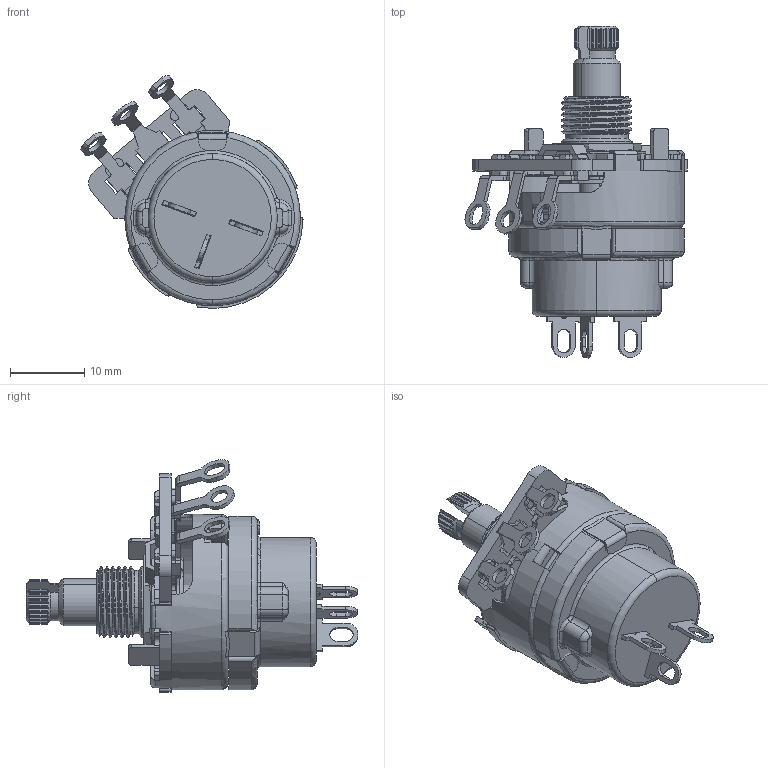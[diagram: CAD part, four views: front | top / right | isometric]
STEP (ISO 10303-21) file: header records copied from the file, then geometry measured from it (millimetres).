
FILE_DESCRIPTION (( 'STEP AP214' ), '1' );
FILE_NAME ('450T220K504B2H6.STEP', '2019-05-27T00:23:29', ( '' ), ( '' ), 'SwSTEP 2.0', 'SolidWorks 2019', '' );
FILE_SCHEMA (( 'AUTOMOTIVE_DESIGN' ));
Length unit declared in the file: millimetre
Products named in the file (16): 041-02-T03-34-01; 450-01-T04-30-01G; 45C-2T-Two lug; T450AEDF(For 450-01-T04); 2-450B-4; 450-40-022-02-37 for 45C-2T_040_041Switch Cover; 040-99-004-00-00; 450D-17 for T450AEDF; 040-37-003-17-01 assembly; 450F-23 for T450AEDF; shaft for 450T220K504B2H6; 041 switch; 450T220K504B2H6; 040-18-003-10-12(20171122); 041-18-002-10-12(20171122); 450 element
Assembly tree (17 placements, depth 4):
  450T220K504B2H6
    041 switch
      041-02-T03-34-01
      040-18-003-10-12(20171122)
      041-18-002-10-12(20171122)  x2
      450-40-022-02-37 for 45C-2T_040_041Switch Cover
      040-99-004-00-00
        040-37-003-17-01 assembly
    T450AEDF(For 450-01-T04)
      450D-17 for T450AEDF
      450 element
      450F-23 for T450AEDF  x2
      450-01-T04-30-01G
    45C-2T-Two lug
    2-450B-4
    shaft for 450T220K504B2H6
Bounding box: 29.89 x 44.69 x 31.35 mm (x, y, z)
Volume: 4343 mm3; surface area: 9328.6 mm2
Topology: 18 solids, 18 shells, 1186 faces, 3252 edges, 2107 vertices
Faces by surface type: plane 657, cylinder 377, torus 64, bspline 51, cone 35, sphere 2
Entity records: 37798 total; most frequent: CARTESIAN_POINT 9565, ORIENTED_EDGE 5996, DIRECTION 5567, EDGE_CURVE 2998, VERTEX_POINT 1948, AXIS2_PLACEMENT_3D 1937, LINE 1693, VECTOR 1693
